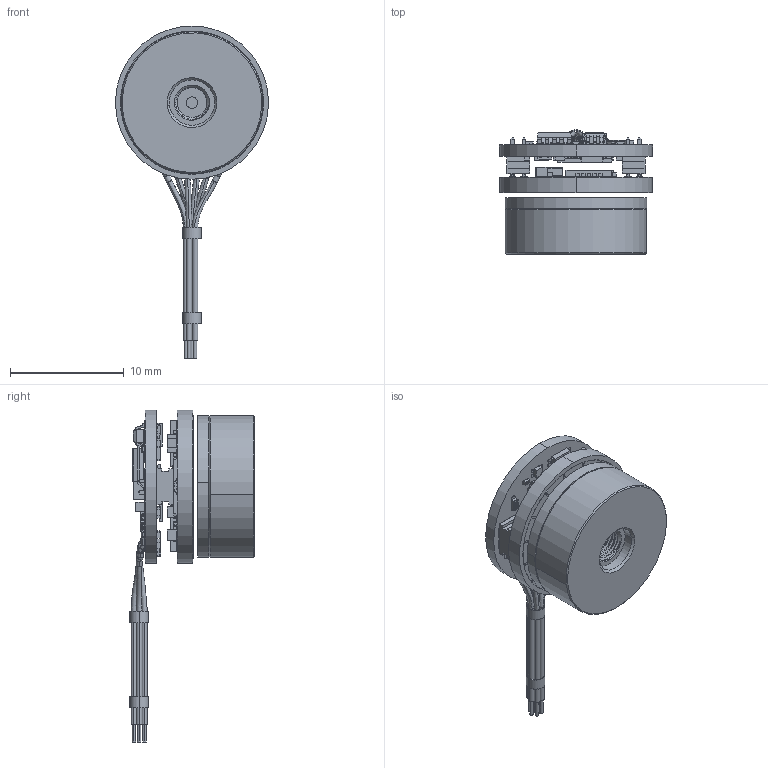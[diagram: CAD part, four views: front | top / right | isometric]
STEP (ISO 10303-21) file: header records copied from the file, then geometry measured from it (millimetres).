
FILE_DESCRIPTION (( 'STEP AP214' ), '1' );
FILE_NAME ('VL-13.STEP', '2025-05-18T14:22:35', ( '' ), ( '' ), 'SwSTEP 2.0', 'SolidWorks 2022', '' );
FILE_SCHEMA (( 'AUTOMOTIVE_DESIGN' ));
Length unit declared in the file: millimetre
Products named in the file (12): EA-00192; PB-00192_F-4 C-1; PN-00208; VL-13; EA-00193; PB-00193-Components; PB-00193_Through holes soldering; MP-03772; VL-13 cable-6-wires; PB-00194_F-4 C-1; PCB-00192-Components; 0603 Resistor
Assembly tree (12 placements, depth 3):
  VL-13
    EA-00192
      PB-00192_F-4 C-1
      PCB-00192-Components
    PN-00208  x2
    EA-00193
      PB-00193_Through holes soldering
      PB-00193-Components
      0603 Resistor
    PB-00194_F-4 C-1
    MP-03772
    VL-13 cable-6-wires
Bounding box: 13.5 x 10.98 x 29.25 mm (x, y, z)
Volume: 981.8 mm3; surface area: 2224.9 mm2
Topology: 121 solids, 334 shells, 7845 faces, 19737 edges, 12822 vertices
Faces by surface type: plane 4435, bspline 1516, cylinder 1511, sphere 320, torus 52, cone 11
Entity records: 388311 total; most frequent: CARTESIAN_POINT 126727, ORIENTED_EDGE 37846, DIRECTION 31597, EDGE_CURVE 18939, LINE 12589, VECTOR 12589, VERTEX_POINT 12450, AXIS2_PLACEMENT_3D 9504
